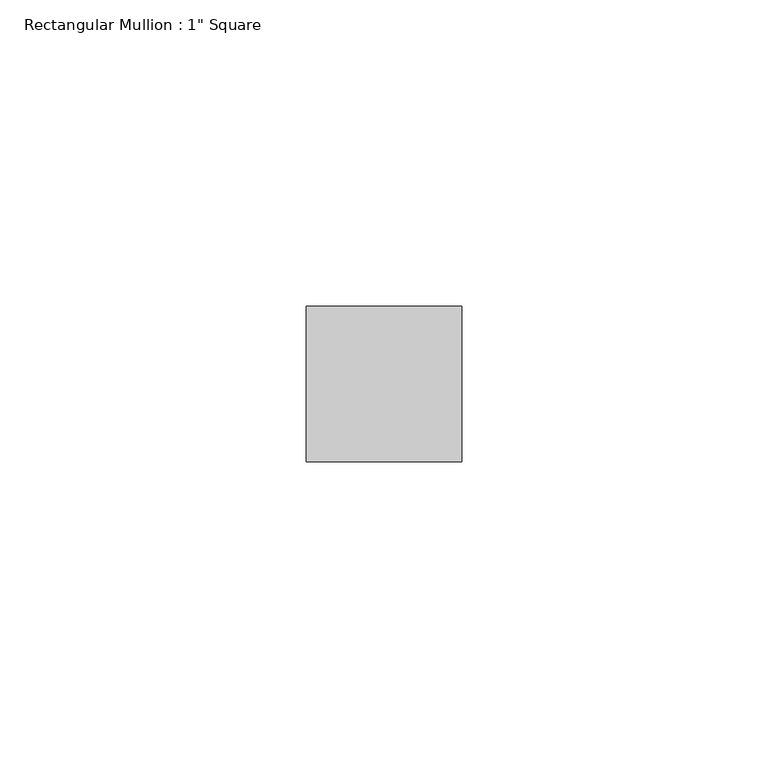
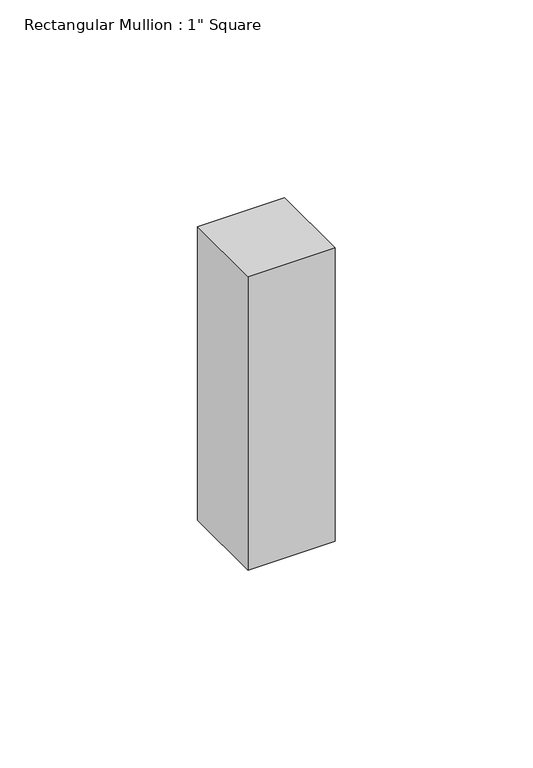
"""IFC4 building model written with IfcOpenShell, lengths in millimetres: member geometry."""

from ifc_helpers import new_model, si_unit, frame, origin, place, context, project, spatial, polyline, outline, extrude, source, transform, mapped, element, save


def member_86ced42f(model_context):
    return source(origin(), model_context, "Body", "SweptSolid", [
        extrude(outline(polyline([(12.7, 12.7), (12.7, -12.7), (-12.7, -12.7), (-12.7, 12.7), (12.7, 12.7)])), frame((0.0, 0.0, -90.4754477), z_axis=(0.0, 0.0, 1.0), x_axis=(1.0, 0.0, 0.0)), (0.0, 0.0, 1.0), 90.4754477),
    ])


if __name__ == "__main__":
    model = new_model("IFC4")
    model_context = context("Model", 3, world=origin())
    ifc_project = project(units=[si_unit("LENGTHUNIT", "METRE", prefix="MILLI")], contexts=[model_context])
    site = spatial("IfcSite", under=ifc_project)
    building = spatial("IfcBuilding", under=site)
    placement = place(None, origin())
    member_shape = member_86ced42f(model_context)
    element("IfcMember", 1, ObjectType="Rectangular Mullion : 1\" Square", at=placement, inside=building, context=model_context, shape_type="MappedRepresentation", body=[
        mapped(member_shape, transform((0.0, 0.0, 0.0), x_axis=(1.0, 0.0, 0.0), y_axis=(0.0, 1.0, 0.0), z_axis=(0.0, 0.0, 1.0))),
    ])
    save(model, "model.ifc")
